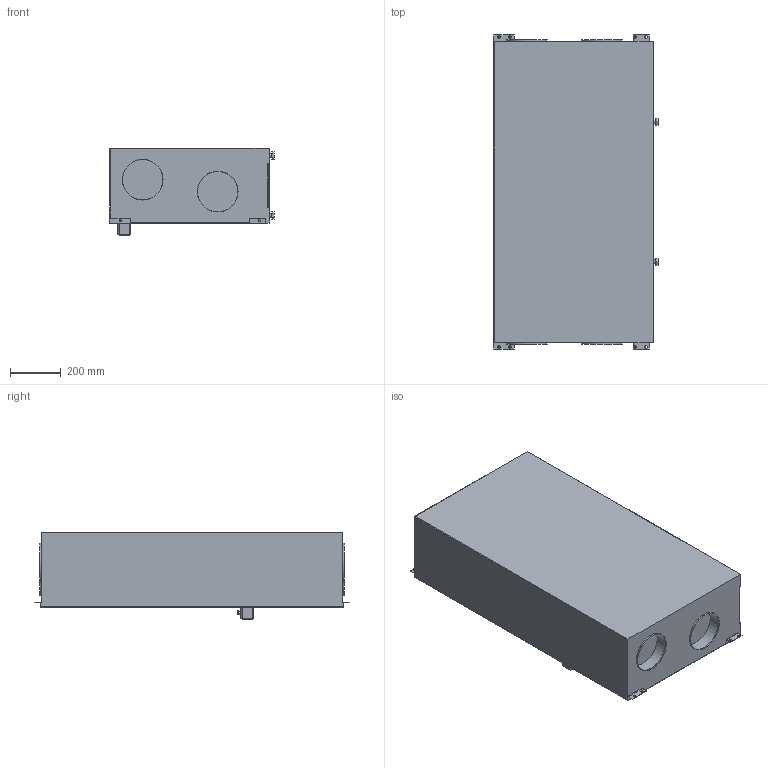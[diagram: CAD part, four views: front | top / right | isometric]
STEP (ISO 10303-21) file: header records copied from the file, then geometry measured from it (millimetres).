
FILE_DESCRIPTION(/* description */ (''),/* implementation_level */ '2;1');
FILE_NAME(/* name */ 'Z:\Output\KWL_340_D_L-40060-001.stp',/* time_stamp */ '2021-03-18T11:16:46+01:00',/* author */ ('engineering1'),/* organization */ (''),/* preprocessor_version */ 'ST-DEVELOPER v17.2',/* originating_system */ 'Autodesk Inventor 2019',/* authorisation */ '');
FILE_SCHEMA (('AUTOMOTIVE_DESIGN { 1 0 10303 214 3 1 1 }'));
Length unit declared in the file: millimetre
Products named in the file (1): KWL-2
Bounding box: 646 x 1235 x 345 mm (x, y, z)
Volume: 216032245.1 mm3; surface area: 2707847.3 mm2
Topology: 1 solids, 1 shells, 186 faces, 427 edges, 266 vertices
Faces by surface type: plane 103, cylinder 65, torus 12, bspline 4, sphere 2
Full cylindrical faces by diameter (mm): 8 x2, 10 x9, 15 x4, 16 x1, 158 x4, 160 x4
Entity records: 5401 total; most frequent: CARTESIAN_POINT 1027, DIRECTION 927, ORIENTED_EDGE 854, EDGE_CURVE 427, AXIS2_PLACEMENT_3D 321, LINE 285, VECTOR 285, VERTEX_POINT 266
